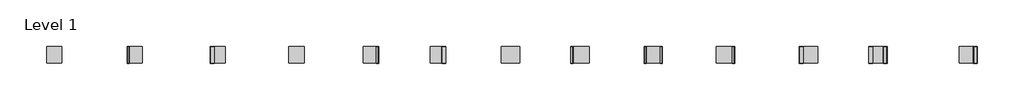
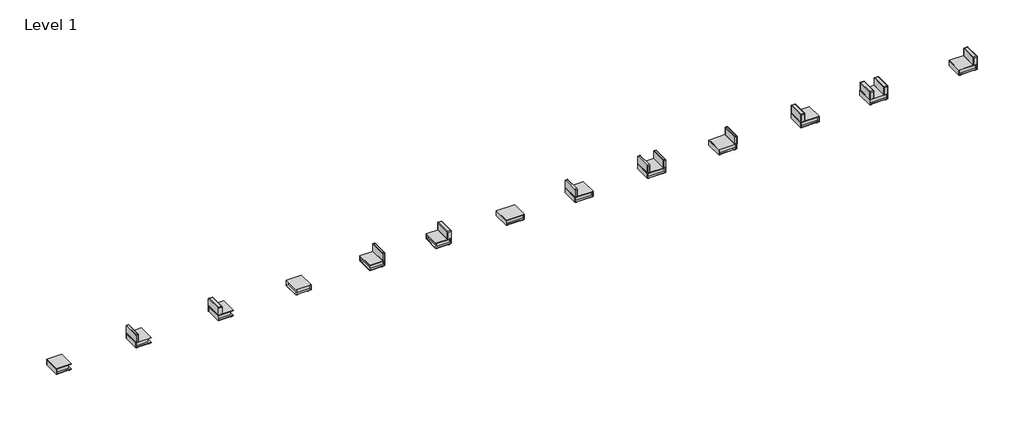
# One storey: 13 furniture elements.
"""IFC4 building model written with IfcOpenShell, lengths in millimetres."""

from ifc_helpers import new_model, si_unit, origin, place, context, project, spatial, transform, mapped, element, save
from components import furniture_4821_l_4821_l_946ea36c, furniture_4821_l_4821_l_8eaed623, furniture_4821_l_4p_4821_l_4p_99b63004, furniture_4821_l_4p_4821_l_4p_9e18c049, furniture_4821_l_8p_4821_l_8p_66b5bbd4, furniture_4821_r_4821_r_739098f7, furniture_4821_r_4821_r_f8ec19d6, furniture_4821_r_4p_4821_r_4p_cb9a3e68, furniture_4821_r_4p_4821_r_4p_70f06d25, furniture_4821_r_8p_4821_r_8p_0f517ffc, furniture_4822_4822_d9f68c8a, furniture_4822_4822_f64f6449, furniture_4822_4lp_4822_4lp_c1b75440, furniture_4822_4lp_4822_4lp_91473fd6, furniture_4822_4lrp_4822_4lrp_52ce8049, furniture_4822_4lrp_4822_4lrp_19047895, furniture_4822_4rp_4822_4rp_09ea465e, furniture_4822_8lp_4822_8lp_c2619356, furniture_4822_8lrp_4822_8lrp_ecd76cde, furniture_4822_8rp_4822_8rp_7e01e892

model = new_model("IFC4")

# Units and contexts
model_context = context("Model", 3, world=origin())
ifc_project = project(units=[si_unit("LENGTHUNIT", "METRE", prefix="MILLI")], contexts=[model_context])

# Site, building, storey
site = spatial("IfcSite", under=ifc_project)
building = spatial("IfcBuilding", under=site)
storey = spatial("IfcBuildingStorey", under=building, Name="Level 1", Elevation=0.0)

# Furniture
placement = place(None, origin())
furniture_4821_l_4821_l_shape = furniture_4821_l_4821_l_946ea36c(model_context)
furniture_4821_l_4821_l_2_shape = furniture_4821_l_4821_l_8eaed623(model_context)
element("IfcFurniture", 1, ObjectType="4821_L : 4821_L", at=placement, inside=storey, context=model_context, shape_type="MappedRepresentation", body=[
    mapped(furniture_4821_l_4821_l_shape, transform((-21053.5737279, 2294.0089941, 0.0), x_axis=(1.0, 0.0, 0.0), y_axis=(0.0, 1.0, 0.0), z_axis=(0.0, 0.0, 1.0))),
    mapped(furniture_4821_l_4821_l_2_shape, transform((-21053.5737279, 2294.0089941, 0.0), x_axis=(1.0, 0.0, 0.0), y_axis=(0.0, 1.0, 0.0), z_axis=(0.0, 0.0, 1.0))),
])
furniture_4821_l_4p_4821_l_4p_shape = furniture_4821_l_4p_4821_l_4p_99b63004(model_context)
furniture_4821_l_4p_4821_l_4p_2_shape = furniture_4821_l_4p_4821_l_4p_9e18c049(model_context)
element("IfcFurniture", 2, ObjectType="4821_L_4P : 4821_L_4P", at=placement, inside=storey, context=model_context, shape_type="MappedRepresentation", body=[
    mapped(furniture_4821_l_4p_4821_l_4p_shape, transform((-17057.5800689, 2294.0089941, 0.0), x_axis=(1.0, 0.0, 0.0), y_axis=(0.0, 1.0, 0.0), z_axis=(0.0, 0.0, 1.0))),
    mapped(furniture_4821_l_4p_4821_l_4p_2_shape, transform((-17057.5800689, 2294.0089941, 0.0), x_axis=(1.0, 0.0, 0.0), y_axis=(0.0, 1.0, 0.0), z_axis=(0.0, 0.0, 1.0))),
])
furniture_4821_l_8p_4821_l_8p_shape = furniture_4821_l_8p_4821_l_8p_66b5bbd4(model_context)
element("IfcFurniture", 3, ObjectType="4821_L_8P : 4821_L_8P", at=placement, inside=storey, context=model_context, shape_type="MappedRepresentation", body=[
    mapped(furniture_4821_l_8p_4821_l_8p_shape, transform((-12940.495693, 2294.0089941, 0.0), x_axis=(1.0, 0.0, 0.0), y_axis=(0.0, 1.0, 0.0), z_axis=(0.0, 0.0, 1.0))),
    mapped(furniture_4821_l_4p_4821_l_4p_2_shape, transform((-12940.495693, 2294.0089941, 0.0), x_axis=(1.0, 0.0, 0.0), y_axis=(0.0, 1.0, 0.0), z_axis=(0.0, 0.0, 1.0))),
])
furniture_4821_r_4821_r_shape = furniture_4821_r_4821_r_739098f7(model_context)
furniture_4821_r_4821_r_2_shape = furniture_4821_r_4821_r_f8ec19d6(model_context)
element("IfcFurniture", 4, ObjectType="4821_R : 4821_R", at=placement, inside=storey, context=model_context, shape_type="MappedRepresentation", body=[
    mapped(furniture_4821_r_4821_r_shape, transform((-8278.5030908, 2294.0089941, 0.0), x_axis=(1.0, 0.0, 0.0), y_axis=(0.0, 1.0, 0.0), z_axis=(0.0, 0.0, 1.0))),
    mapped(furniture_4821_r_4821_r_2_shape, transform((-8278.5030908, 2294.0089941, 0.0), x_axis=(1.0, 0.0, 0.0), y_axis=(0.0, 1.0, 0.0), z_axis=(0.0, 0.0, 1.0))),
])
furniture_4821_r_4p_4821_r_4p_shape = furniture_4821_r_4p_4821_r_4p_cb9a3e68(model_context)
furniture_4821_r_4p_4821_r_4p_2_shape = furniture_4821_r_4p_4821_r_4p_70f06d25(model_context)
element("IfcFurniture", 5, ObjectType="4821_R_4P : 4821_R_4P", at=placement, inside=storey, context=model_context, shape_type="MappedRepresentation", body=[
    mapped(furniture_4821_r_4p_4821_r_4p_shape, transform((-4585.2362242, 2294.0089941, 0.0), x_axis=(1.0, 0.0, 0.0), y_axis=(0.0, 1.0, 0.0), z_axis=(0.0, 0.0, 1.0))),
    mapped(furniture_4821_r_4p_4821_r_4p_2_shape, transform((-4585.2362242, 2294.0089941, 0.0), x_axis=(1.0, 0.0, 0.0), y_axis=(0.0, 1.0, 0.0), z_axis=(0.0, 0.0, 1.0))),
])
furniture_4821_r_8p_4821_r_8p_shape = furniture_4821_r_8p_4821_r_8p_0f517ffc(model_context)
element("IfcFurniture", 6, ObjectType="4821_R_8P : 4821_R_8P", at=placement, inside=storey, context=model_context, shape_type="MappedRepresentation", body=[
    mapped(furniture_4821_r_8p_4821_r_8p_shape, transform((-1255.2415084, 2294.0089941, 0.0), x_axis=(1.0, 0.0, 0.0), y_axis=(0.0, 1.0, 0.0), z_axis=(0.0, 0.0, 1.0))),
    mapped(furniture_4821_r_4p_4821_r_4p_2_shape, transform((-1255.2415084, 2294.0089941, 0.0), x_axis=(1.0, 0.0, 0.0), y_axis=(0.0, 1.0, 0.0), z_axis=(0.0, 0.0, 1.0))),
])
furniture_4822_4822_shape = furniture_4822_4822_d9f68c8a(model_context)
furniture_4822_4822_2_shape = furniture_4822_4822_f64f6449(model_context)
element("IfcFurniture", 7, ObjectType="4822 : 4822", at=placement, inside=storey, context=model_context, shape_type="MappedRepresentation", body=[
    mapped(furniture_4822_4822_shape, transform((1953.6624905, 2294.0089941, 0.0), x_axis=(1.0, 0.0, 0.0), y_axis=(0.0, 1.0, 0.0), z_axis=(0.0, 0.0, 1.0))),
    mapped(furniture_4822_4822_2_shape, transform((1953.6624905, 2294.0089941, 0.0), x_axis=(1.0, 0.0, 0.0), y_axis=(0.0, 1.0, 0.0), z_axis=(0.0, 0.0, 1.0))),
])
furniture_4822_4lp_4822_4lp_shape = furniture_4822_4lp_4822_4lp_c1b75440(model_context)
furniture_4822_4lp_4822_4lp_2_shape = furniture_4822_4lp_4822_4lp_91473fd6(model_context)
element("IfcFurniture", 8, ObjectType="4822_4LP : 4822_4LP", at=placement, inside=storey, context=model_context, shape_type="MappedRepresentation", body=[
    mapped(furniture_4822_4lp_4822_4lp_shape, transform((5404.7479232, 2294.0089941, 0.0), x_axis=(1.0, 0.0, 0.0), y_axis=(0.0, 1.0, 0.0), z_axis=(0.0, 0.0, 1.0))),
    mapped(furniture_4822_4lp_4822_4lp_2_shape, transform((5404.7479232, 2294.0089941, 0.0), x_axis=(1.0, 0.0, 0.0), y_axis=(0.0, 1.0, 0.0), z_axis=(0.0, 0.0, 1.0))),
])
furniture_4822_4lrp_4822_4lrp_shape = furniture_4822_4lrp_4822_4lrp_52ce8049(model_context)
furniture_4822_4lrp_4822_4lrp_2_shape = furniture_4822_4lrp_4822_4lrp_19047895(model_context)
element("IfcFurniture", 9, ObjectType="4822_4LRP : 4822_4LRP", at=placement, inside=storey, context=model_context, shape_type="MappedRepresentation", body=[
    mapped(furniture_4822_4lrp_4822_4lrp_shape, transform((9037.4694314, 2294.0089941, 0.0), x_axis=(1.0, 0.0, 0.0), y_axis=(0.0, 1.0, 0.0), z_axis=(0.0, 0.0, 1.0))),
    mapped(furniture_4822_4lrp_4822_4lrp_2_shape, transform((9037.4694314, 2294.0089941, 0.0), x_axis=(1.0, 0.0, 0.0), y_axis=(0.0, 1.0, 0.0), z_axis=(0.0, 0.0, 1.0))),
])
furniture_4822_4rp_4822_4rp_shape = furniture_4822_4rp_4822_4rp_09ea465e(model_context)
element("IfcFurniture", 10, ObjectType="4822_4RP : 4822_4RP", at=placement, inside=storey, context=model_context, shape_type="MappedRepresentation", body=[
    mapped(furniture_4822_4rp_4822_4rp_shape, transform((12609.6455811, 2294.0089941, 0.0), x_axis=(1.0, 0.0, 0.0), y_axis=(0.0, 1.0, 0.0), z_axis=(0.0, 0.0, 1.0))),
    mapped(furniture_4822_4lp_4822_4lp_2_shape, transform((12609.6455811, 2294.0089941, 0.0), x_axis=(1.0, 0.0, 0.0), y_axis=(0.0, 1.0, 0.0), z_axis=(0.0, 0.0, 1.0))),
])
furniture_4822_8lp_4822_8lp_shape = furniture_4822_8lp_4822_8lp_c2619356(model_context)
element("IfcFurniture", 11, ObjectType="4822_8LP : 4822_8LP", at=placement, inside=storey, context=model_context, shape_type="MappedRepresentation", body=[
    mapped(furniture_4822_8lp_4822_8lp_shape, transform((16726.729957, 2294.0089941, 0.0), x_axis=(1.0, 0.0, 0.0), y_axis=(0.0, 1.0, 0.0), z_axis=(0.0, 0.0, 1.0))),
    mapped(furniture_4822_4lp_4822_4lp_2_shape, transform((16726.729957, 2294.0089941, 0.0), x_axis=(1.0, 0.0, 0.0), y_axis=(0.0, 1.0, 0.0), z_axis=(0.0, 0.0, 1.0))),
])
furniture_4822_8lrp_4822_8lrp_shape = furniture_4822_8lrp_4822_8lrp_ecd76cde(model_context)
element("IfcFurniture", 12, ObjectType="4822_8LRP : 4822_8LRP", at=placement, inside=storey, context=model_context, shape_type="MappedRepresentation", body=[
    mapped(furniture_4822_8lrp_4822_8lrp_shape, transform((20177.8153898, 2294.0089941, 0.0), x_axis=(1.0, 0.0, 0.0), y_axis=(0.0, 1.0, 0.0), z_axis=(0.0, 0.0, 1.0))),
    mapped(furniture_4822_4lrp_4822_4lrp_2_shape, transform((20177.8153898, 2294.0089941, 0.0), x_axis=(1.0, 0.0, 0.0), y_axis=(0.0, 1.0, 0.0), z_axis=(0.0, 0.0, 1.0))),
])
furniture_4822_8rp_4822_8rp_shape = furniture_4822_8rp_4822_8rp_7e01e892(model_context)
element("IfcFurniture", 13, ObjectType="4822_8RP : 4822_8RP", at=placement, inside=storey, context=model_context, shape_type="MappedRepresentation", body=[
    mapped(furniture_4822_8rp_4822_8rp_shape, transform((24658.1719165, 2294.0089941, 0.0), x_axis=(1.0, 0.0, 0.0), y_axis=(0.0, 1.0, 0.0), z_axis=(0.0, 0.0, 1.0))),
    mapped(furniture_4822_4lp_4822_4lp_2_shape, transform((24658.1719165, 2294.0089941, 0.0), x_axis=(1.0, 0.0, 0.0), y_axis=(0.0, 1.0, 0.0), z_axis=(0.0, 0.0, 1.0))),
])

save(model, "model.ifc")
